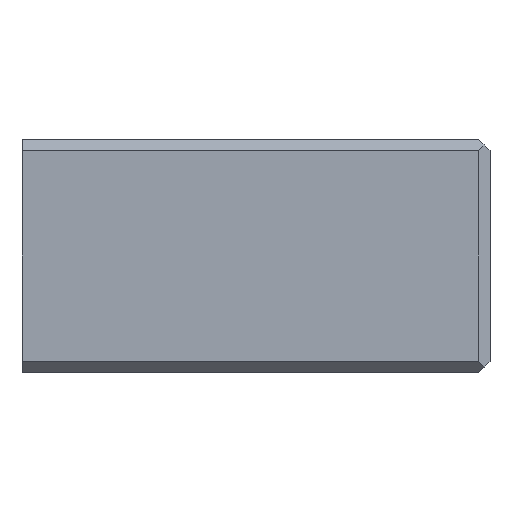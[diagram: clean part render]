
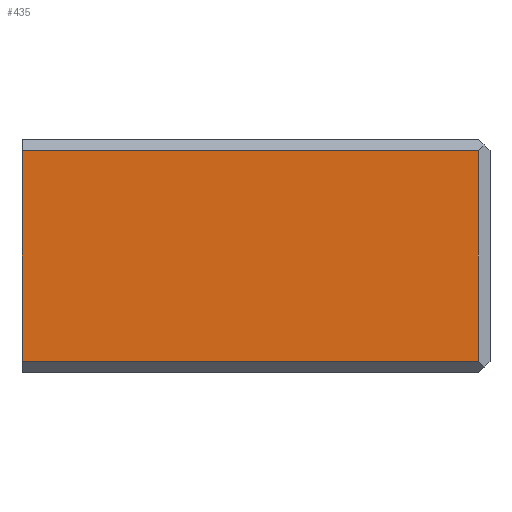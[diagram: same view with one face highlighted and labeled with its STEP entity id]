
A CAD part, front view. The second image highlights one B-rep face of the part: STEP entity #435.
In plain terms, the highlighted planar face has unit normal (0, -1, 0).
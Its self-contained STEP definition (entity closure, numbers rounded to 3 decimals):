
#396=CARTESIAN_POINT('Axis2P3D Location',(-28.231,2.,10.)) ;
#401=CARTESIAN_POINT('Line Origine',(16.5,2.,0.)) ;
#405=CARTESIAN_POINT('Vertex',(16.5,2.,-9.)) ;
#407=CARTESIAN_POINT('Vertex',(16.5,2.,9.)) ;
#410=CARTESIAN_POINT('Line Origine',(-3.,2.,9.)) ;
#414=CARTESIAN_POINT('Vertex',(-22.5,2.,9.)) ;
#417=CARTESIAN_POINT('Line Origine',(-22.5,2.,0.)) ;
#421=CARTESIAN_POINT('Vertex',(-22.5,2.,-9.)) ;
#424=CARTESIAN_POINT('Line Origine',(-3.,2.,-9.)) ;
#397=DIRECTION('Axis2P3D Direction',(-0.,1.,0.)) ;
#398=DIRECTION('Axis2P3D XDirection',(1.,0.,0.)) ;
#402=DIRECTION('Vector Direction',(0.,0.,1.)) ;
#411=DIRECTION('Vector Direction',(1.,0.,0.)) ;
#418=DIRECTION('Vector Direction',(0.,0.,1.)) ;
#425=DIRECTION('Vector Direction',(1.,0.,0.)) ;
#399=AXIS2_PLACEMENT_3D('Plane Axis2P3D',#396,#397,#398) ;
#430=ORIENTED_EDGE('',*,*,#409,.T.) ;
#431=ORIENTED_EDGE('',*,*,#416,.T.) ;
#432=ORIENTED_EDGE('',*,*,#423,.F.) ;
#433=ORIENTED_EDGE('',*,*,#428,.F.) ;
#403=VECTOR('Line Direction',#402,1.) ;
#412=VECTOR('Line Direction',#411,1.) ;
#419=VECTOR('Line Direction',#418,1.) ;
#426=VECTOR('Line Direction',#425,1.) ;
#435=ADVANCED_FACE('\X2\96F64EF651E04F554F53\X0\',(#434),#400,.F.) ;
#409=EDGE_CURVE('',#406,#408,#404,.T.) ;
#416=EDGE_CURVE('',#408,#415,#413,.F.) ;
#423=EDGE_CURVE('',#422,#415,#420,.T.) ;
#428=EDGE_CURVE('',#406,#422,#427,.F.) ;
#429=EDGE_LOOP('',(#430,#431,#432,#433)) ;
#434=FACE_OUTER_BOUND('',#429,.T.) ;
#404=LINE('Line',#401,#403) ;
#413=LINE('Line',#410,#412) ;
#420=LINE('Line',#417,#419) ;
#427=LINE('Line',#424,#426) ;
#400=PLANE('Plane',#399) ;
#406=VERTEX_POINT('',#405) ;
#408=VERTEX_POINT('',#407) ;
#415=VERTEX_POINT('',#414) ;
#422=VERTEX_POINT('',#421) ;
